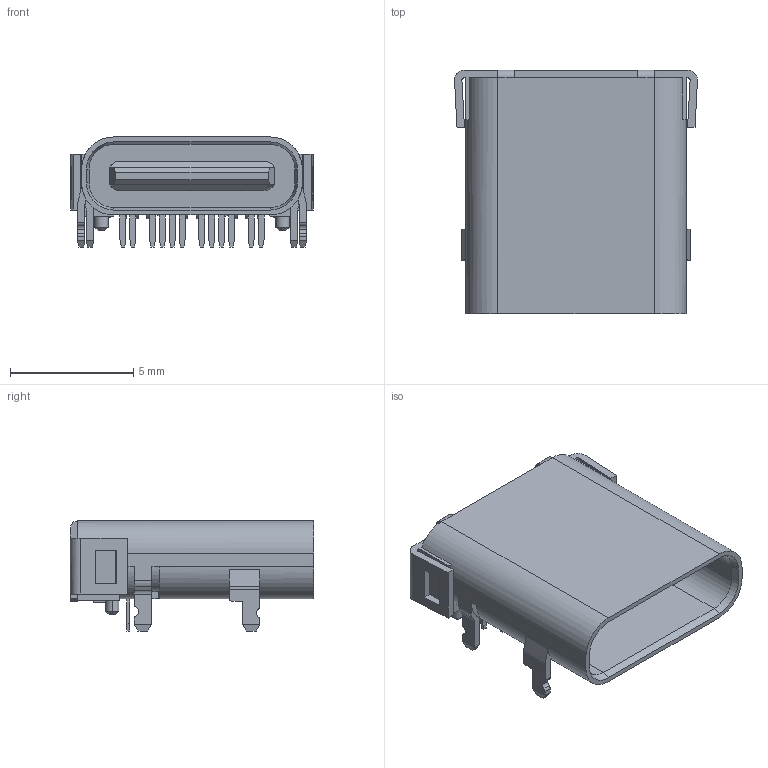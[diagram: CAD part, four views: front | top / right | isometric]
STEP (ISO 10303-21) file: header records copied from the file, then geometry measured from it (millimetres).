
FILE_DESCRIPTION((''),'2;1');
FILE_NAME('TYPE-C_1022405GR003','2018-07-04T',('Administrator'),(''),'PRO/ENGINEER BY PARAMETRIC TECHNOLOGY CORPORATION, 2010280','PRO/ENGINEER BY PARAMETRIC TECHNOLOGY CORPORATION, 2010280','');
FILE_SCHEMA(('CONFIG_CONTROL_DESIGN'));
Length unit declared in the file: millimetre
Products named in the file (1): TYPE-C_1022405GR003
Bounding box: 9.85 x 9.87 x 4.46 mm (x, y, z)
Volume: 147.4 mm3; surface area: 563.2 mm2
Topology: 1 solids, 1 shells, 387 faces, 1034 edges, 673 vertices
Faces by surface type: plane 300, cylinder 78, cone 8, bspline 1
Entity records: 12043 total; most frequent: CARTESIAN_POINT 2190, ORIENTED_EDGE 2068, DIRECTION 1972, EDGE_CURVE 1034, VECTOR 848, LINE 848, VERTEX_POINT 673, AXIS2_PLACEMENT_3D 562
